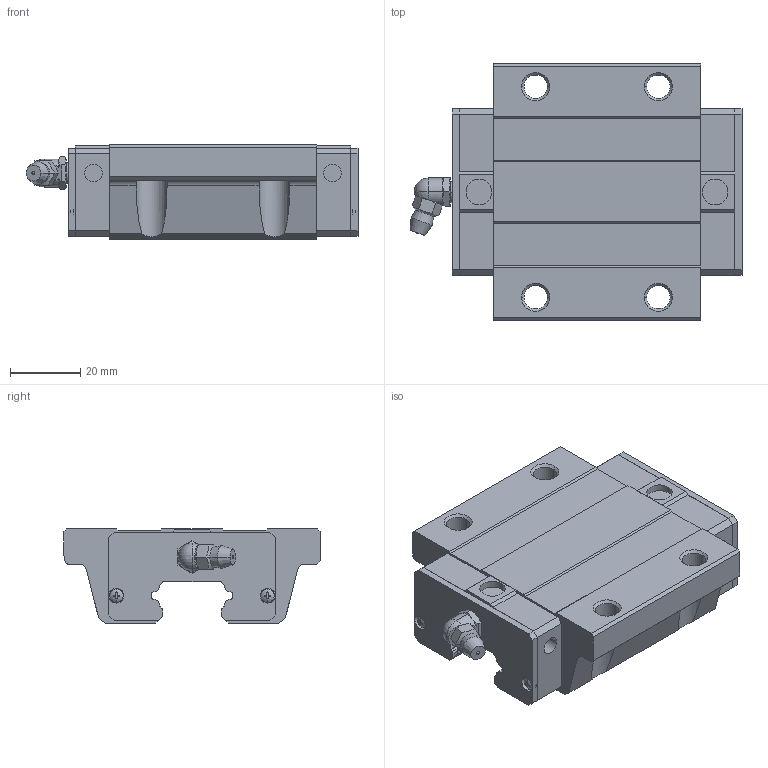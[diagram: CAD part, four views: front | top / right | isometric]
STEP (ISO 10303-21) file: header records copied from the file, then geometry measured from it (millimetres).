
FILE_DESCRIPTION(('starvars output'),'2;1');
FILE_NAME('cv20190610050314000011169.stp','05:03:14 2019/06/10',( 'Thomas Industrial Network Germany GmbH'),( 'Thomas Industrial Network Germany GmbH'),'unknown preprocess','ACIS' ,'unknown authorization');
FILE_SCHEMA(('CONFIG_CONTROL_DESIGN {UNKNOWN IMPLEMENTATION LEVEL}'));
Length unit declared in the file: millimetre
Products named in the file (10): PRODUCT_ID_1; PRODUCT_ID_2; PRODUCT_ID_3; PRODUCT_ID_4; PRODUCT_ID_5; PRODUCT_ID_6; PRODUCT_ID_7; PRODUCT_ID_8; PRODUCT_ID_9; PRODUCT_ID_10
Bounding box: 94.6 x 73 x 26.8 mm (x, y, z)
Volume: 105767.4 mm3; surface area: 29611.3 mm2
Topology: 10 solids, 10 shells, 437 faces, 1160 edges, 752 vertices
Faces by surface type: plane 231, cylinder 138, cone 56, sphere 12
Entity records: 13256 total; most frequent: ORIENTED_EDGE 2312, CARTESIAN_POINT 2182, DIRECTION 1959, EDGE_CURVE 1156, VERTEX_POINT 752, AXIS2_PLACEMENT_3D 655, VECTOR 649, LINE 649
